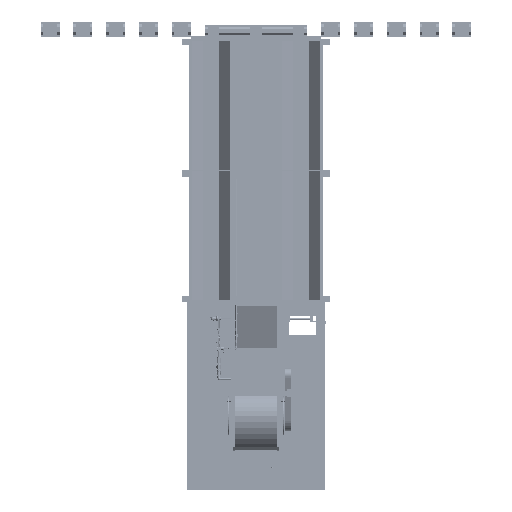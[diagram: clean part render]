
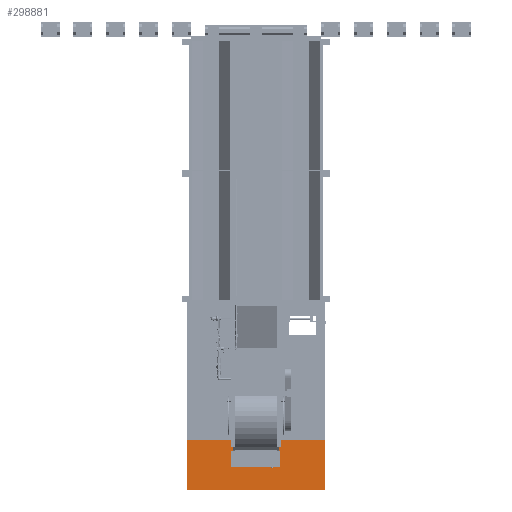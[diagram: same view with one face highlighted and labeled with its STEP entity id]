
A CAD part, front view. The second image highlights one B-rep face of the part: STEP entity #298881.
In plain terms, the highlighted planar face has unit normal (0, -1, 0) as drawn and (1, 0, 0) by its records, which use the part's own axes.
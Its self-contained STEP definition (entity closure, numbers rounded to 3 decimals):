
#59273=FACE_OUTER_BOUND('',#77254,.T.);
#77254=EDGE_LOOP('',(#270480,#270481,#270482,#270483));
#98734=LINE('',#727297,#121364);
#98770=LINE('',#727365,#121400);
#98782=LINE('',#727388,#121412);
#98783=LINE('',#727389,#121413);
#121364=VECTOR('',#396800,0.394);
#121400=VECTOR('',#396854,0.394);
#121412=VECTOR('',#396878,0.394);
#121413=VECTOR('',#396879,0.394);
#148590=VERTEX_POINT('',#727294);
#148591=VERTEX_POINT('',#727296);
#148614=VERTEX_POINT('',#727363);
#148619=VERTEX_POINT('',#727387);
#189606=EDGE_CURVE('',#148590,#148591,#98734,.T.);
#189642=EDGE_CURVE('',#148590,#148614,#98770,.T.);
#189654=EDGE_CURVE('',#148614,#148619,#98782,.T.);
#189655=EDGE_CURVE('',#148619,#148591,#98783,.T.);
#270480=ORIENTED_EDGE('',*,*,#189642,.T.);
#270481=ORIENTED_EDGE('',*,*,#189654,.T.);
#270482=ORIENTED_EDGE('',*,*,#189655,.T.);
#270483=ORIENTED_EDGE('',*,*,#189606,.F.);
#282925=PLANE('',#325931);
#298881=ADVANCED_FACE('',(#59273),#282925,.T.);
#325931=AXIS2_PLACEMENT_3D('',#727386,#396876,#396877);
#396800=DIRECTION('',(0.,0.,1.));
#396854=DIRECTION('',(0.,1.,0.));
#396876=DIRECTION('center_axis',(1.,0.,0.));
#396877=DIRECTION('ref_axis',(0.,0.,-1.));
#396878=DIRECTION('',(0.,0.,1.));
#396879=DIRECTION('',(0.,-1.,0.));
#727294=CARTESIAN_POINT('',(-0.125,-30.,101.063));
#727296=CARTESIAN_POINT('',(-0.125,-30.,137.75));
#727297=CARTESIAN_POINT('',(-0.125,-30.,0.));
#727363=CARTESIAN_POINT('',(-0.125,70.5,101.063));
#727365=CARTESIAN_POINT('',(-0.125,20.25,101.063));
#727386=CARTESIAN_POINT('Origin',(-0.125,70.5,0.));
#727387=CARTESIAN_POINT('',(-0.125,70.5,137.75));
#727388=CARTESIAN_POINT('',(-0.125,70.5,0.));
#727389=CARTESIAN_POINT('',(-0.125,-30.,137.75));
